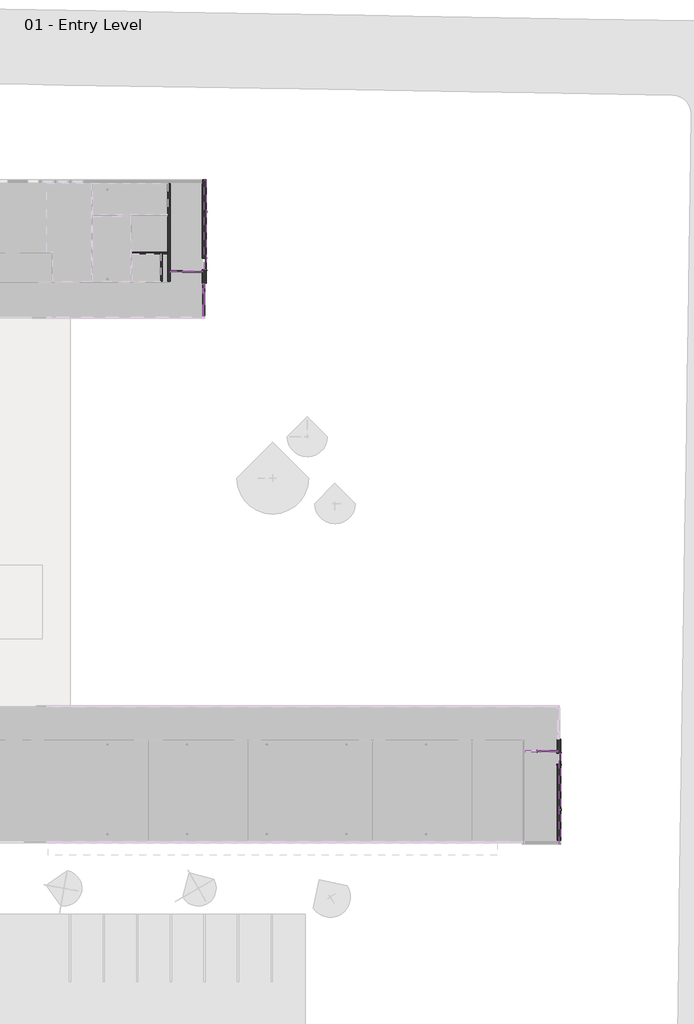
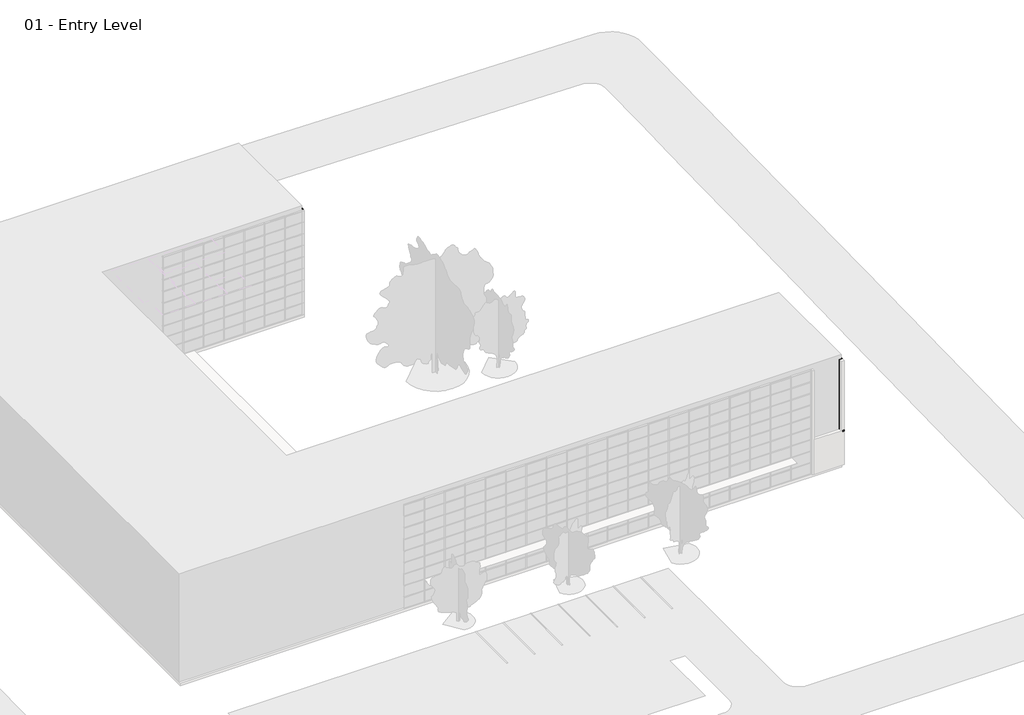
# One storey, part 31 of 34: 70 members, 23 plates, 5 walls, 4 proxies, 3 doors.
"""IFC4 building model written with IfcOpenShell, lengths in millimetres."""

from ifc_helpers import new_model, si_unit, frame, origin, origin_with_axes, place, context, project, spatial, polyline, outline, extrude, faceted_brep, transform, mapped, element, save
from components import curtain_wall_sgl_glass_curtain_wall_sgl_glass_c2d4b377, door_4e13689c, door_90af15fc, member_2b49869a, member_75074519, member_18e22e2d, member_9193c932, member_c33c434a, member_2ee2964b, member_9822c4e5, member_b50b2218, member_6186cc23, member_5d67b9fc, member_a50b3cda, member_c327c56d, member_410c6227, member_73c23c35, member_bcb6a316, member_d3323a85, member_7bd2cd2c, member_6be37683, member_aae1cefe, member_5e33a872, member_7c0f4a23, member_95d83a1b, system_panel_glazed_bb8d5bd2, system_panel_glazed_f6796d4b, system_panel_glazed_01db37db, system_panel_glazed_0a464ab8, system_panel_glazed_652e8fc4, system_panel_glazed_8dc8626f, system_panel_glazed_bb2f95a6, system_panel_glazed_de38c793, system_panel_glazed_8879a23a, system_panel_glazed_cf112098

model = new_model("IFC4")

# Units and contexts
model_context = context("Model", 3, world=origin())
ifc_project = project(units=[si_unit("LENGTHUNIT", "METRE", prefix="MILLI")], contexts=[model_context])

# Site, building, storey
site = spatial("IfcSite", under=ifc_project)
building = spatial("IfcBuilding", under=site)
storey = spatial("IfcBuildingStorey", under=building, Name="01 - Entry Level", Elevation=0.0)

# Proxies
placement = place(None, origin())
element("IfcBuildingElementProxy", 1, Name="Reveal", ObjectType="Reveal", at=placement, inside=storey, context=model_context, shape_type="SweptSolid", body=[
    extrude(outline(polyline([(66310.7957476, -254.075), (66158.3957476, -254.075), (66158.3957476, 7204.0), (66310.7957476, 7204.0), (66310.7957476, -254.075)])), frame((0.0, 0.0, 3505.2), z_axis=(0.0, 0.0, 1.0), x_axis=(1.0, 0.0, 0.0)), (0.0, 0.0, 1.0), 152.4),
])
element("IfcBuildingElementProxy", 2, Name="Reveal", ObjectType="Reveal", at=placement, inside=storey, context=model_context, shape_type="SweptSolid", body=[
    extrude(outline(polyline([(66341.2757476, 2490.7125), (66158.3957476, 2490.7125), (66158.3957476, 2643.1125), (66341.2757476, 2643.1125), (66341.2757476, 2490.7125)])), origin_with_axes(), (0.0, 0.0, 1.0), 9753.6),
])
element("IfcBuildingElementProxy", 3, Name="Reveal", ObjectType="Reveal", at=placement, inside=storey, context=model_context, shape_type="SweptSolid", body=[
    extrude(outline(polyline([(37385.2757476, 51336.5), (37202.3957476, 51336.5), (37202.3957476, 51488.9), (37385.2757476, 51488.9), (37385.2757476, 51336.5)])), origin_with_axes(), (0.0, 0.0, 1.0), 9753.6),
])
element("IfcBuildingElementProxy", 4, Name="Reveal", ObjectType="Reveal", at=placement, inside=storey, context=model_context, shape_type="SweptSolid", body=[
    extrude(outline(polyline([(37354.7957476, 46675.6), (37202.3957476, 46675.6), (37202.3957476, 54032.075), (37354.7957476, 54032.075), (37354.7957476, 46675.6)])), frame((0.0, 0.0, 3657.6), z_axis=(0.0, 0.0, 1.0), x_axis=(1.0, 0.0, 0.0)), (0.0, 0.0, 1.0), 152.4),
])

# Doors
curtain_wall_sgl_glass_curtain_wall_sgl_glass_shape = curtain_wall_sgl_glass_curtain_wall_sgl_glass_c2d4b377(model_context)
element("IfcDoor", 5, ObjectType="Curtain Wall Sgl Glass : Curtain Wall Sgl Glass", at=placement, inside=storey, context=model_context, shape_type="MappedRepresentation", body=[
    mapped(curtain_wall_sgl_glass_curtain_wall_sgl_glass_shape, transform((34925.9207476, 46523.2, 0.0), x_axis=(-1.0, 0.0, 0.0), y_axis=(0.0, -1.0, 0.0), z_axis=(0.0, 0.0, 1.0))),
])
door_shape = door_4e13689c(model_context)
element("IfcDoor", 6, ObjectType="Single-Flush : 36\" x 84\"", at=placement, inside=storey, context=model_context, shape_type="MappedRepresentation", body=[
    mapped(door_shape, transform((37200.8082476, 47132.8, 0.0), x_axis=(0.0, -1.0, 0.0), y_axis=(1.0, 0.0, 0.0), z_axis=(0.0, 0.0, 1.0))),
])
door_2_shape = door_90af15fc(model_context)
element("IfcDoor", 7, ObjectType="Single-Flush : 36\" x 84\"", at=placement, inside=storey, context=model_context, shape_type="MappedRepresentation", body=[
    mapped(door_2_shape, transform((66156.8082476, 6746.8, 0.0), x_axis=(0.0, 1.0, 0.0), y_axis=(-1.0, 0.0, 0.0), z_axis=(0.0, 0.0, 1.0))),
])

# Members
member_shape = member_2b49869a(model_context)
element("IfcMember", 8, ObjectType="Rectangular Mullion : 2.5\" x 5\" rectangular", at=placement, inside=storey, context=model_context, shape_type="MappedRepresentation", body=[
    mapped(member_shape, transform((37148.4207476, 44783.3, 9753.6), x_axis=(0.0, 1.0, 0.0), y_axis=(1.0, 0.0, 0.0), z_axis=(0.0, 0.0, -1.0))),
])
member_2_shape = member_75074519(model_context)
element("IfcMember", 9, ObjectType="Rectangular Mullion : 2.5\" x 5\" rectangular", at=placement, inside=storey, context=model_context, shape_type="MappedRepresentation", body=[
    mapped(member_2_shape, transform((37148.4207476, 45545.3, 9753.6), x_axis=(0.0, 1.0, 0.0), y_axis=(1.0, 0.0, 0.0), z_axis=(0.0, 0.0, -1.0))),
])
member_3_shape = member_18e22e2d(model_context)
element("IfcMember", 10, ObjectType="Rectangular Mullion : 2.5\" x 5\" rectangular", at=placement, inside=storey, context=model_context, shape_type="MappedRepresentation", body=[
    mapped(member_3_shape, transform((35414.8707476, 46523.2, 2438.4), x_axis=(1.0, 0.0, 0.0), y_axis=(0.0, -1.0, 0.0), z_axis=(0.0, 0.0, -1.0))),
])
element("IfcMember", 11, ObjectType="Rectangular Mullion : 2.5\" x 5\" rectangular", at=placement, inside=storey, context=model_context, shape_type="MappedRepresentation", body=[
    mapped(member_3_shape, transform((64358.1707476, 7356.4, 2438.4), x_axis=(1.0, 0.0, 0.0), y_axis=(0.0, -1.0, 0.0), z_axis=(0.0, 0.0, -1.0))),
])
member_4_shape = member_9193c932(model_context)
element("IfcMember", 12, ObjectType="Rectangular Mullion : 2.5\" x 5\" rectangular", at=placement, inside=storey, context=model_context, shape_type="MappedRepresentation", body=[
    mapped(member_4_shape, transform((66055.2082476, 7356.4, 2438.4), x_axis=(1.0, 0.0, 0.0), y_axis=(0.0, -1.0, 0.0), z_axis=(0.0, 0.0, -1.0))),
])
element("IfcMember", 13, ObjectType="Rectangular Mullion : 2.5\" x 5\" rectangular", at=placement, inside=storey, context=model_context, shape_type="MappedRepresentation", body=[
    mapped(member_4_shape, transform((34405.2207476, 46523.2, 3403.6), x_axis=(-1.0, 0.0, 0.0), y_axis=(0.0, -1.0, 0.0), z_axis=(0.0, 0.0, 1.0))),
])
element("IfcMember", 14, ObjectType="Rectangular Mullion : 2.5\" x 5\" rectangular", at=placement, inside=storey, context=model_context, shape_type="MappedRepresentation", body=[
    mapped(member_4_shape, transform((37046.8207476, 46523.2, 2438.4), x_axis=(1.0, 0.0, 0.0), y_axis=(0.0, -1.0, 0.0), z_axis=(0.0, 0.0, -1.0))),
])
element("IfcMember", 15, ObjectType="Rectangular Mullion : 2.5\" x 5\" rectangular", at=placement, inside=storey, context=model_context, shape_type="MappedRepresentation", body=[
    mapped(member_shape, transform((37148.4207476, 44783.3, 0.0), x_axis=(0.0, 1.0, 0.0), y_axis=(1.0, 0.0, 0.0), z_axis=(0.0, 0.0, -1.0))),
])
element("IfcMember", 16, ObjectType="Rectangular Mullion : 2.5\" x 5\" rectangular", at=placement, inside=storey, context=model_context, shape_type="MappedRepresentation", body=[
    mapped(member_shape, transform((37148.4207476, 44783.3, 1219.2), x_axis=(0.0, 1.0, 0.0), y_axis=(1.0, 0.0, 0.0), z_axis=(0.0, 0.0, -1.0))),
])
element("IfcMember", 17, ObjectType="Rectangular Mullion : 2.5\" x 5\" rectangular", at=placement, inside=storey, context=model_context, shape_type="MappedRepresentation", body=[
    mapped(member_shape, transform((37148.4207476, 44783.3, 2438.4), x_axis=(0.0, 1.0, 0.0), y_axis=(1.0, 0.0, 0.0), z_axis=(0.0, 0.0, -1.0))),
])
element("IfcMember", 18, ObjectType="Rectangular Mullion : 2.5\" x 5\" rectangular", at=placement, inside=storey, context=model_context, shape_type="MappedRepresentation", body=[
    mapped(member_shape, transform((37148.4207476, 44783.3, 3657.6), x_axis=(0.0, 1.0, 0.0), y_axis=(1.0, 0.0, 0.0), z_axis=(0.0, 0.0, -1.0))),
])
element("IfcMember", 19, ObjectType="Rectangular Mullion : 2.5\" x 5\" rectangular", at=placement, inside=storey, context=model_context, shape_type="MappedRepresentation", body=[
    mapped(member_shape, transform((37148.4207476, 44783.3, 4876.8), x_axis=(0.0, 1.0, 0.0), y_axis=(1.0, 0.0, 0.0), z_axis=(0.0, 0.0, -1.0))),
])
element("IfcMember", 20, ObjectType="Rectangular Mullion : 2.5\" x 5\" rectangular", at=placement, inside=storey, context=model_context, shape_type="MappedRepresentation", body=[
    mapped(member_shape, transform((37148.4207476, 44783.3, 6096.0), x_axis=(0.0, 1.0, 0.0), y_axis=(1.0, 0.0, 0.0), z_axis=(0.0, 0.0, -1.0))),
])
element("IfcMember", 21, ObjectType="Rectangular Mullion : 2.5\" x 5\" rectangular", at=placement, inside=storey, context=model_context, shape_type="MappedRepresentation", body=[
    mapped(member_shape, transform((37148.4207476, 44783.3, 7315.2), x_axis=(0.0, 1.0, 0.0), y_axis=(1.0, 0.0, 0.0), z_axis=(0.0, 0.0, -1.0))),
])
element("IfcMember", 22, ObjectType="Rectangular Mullion : 2.5\" x 5\" rectangular", at=placement, inside=storey, context=model_context, shape_type="MappedRepresentation", body=[
    mapped(member_shape, transform((37148.4207476, 44783.3, 8534.4), x_axis=(0.0, 1.0, 0.0), y_axis=(1.0, 0.0, 0.0), z_axis=(0.0, 0.0, -1.0))),
])
member_5_shape = member_c33c434a(model_context)
element("IfcMember", 23, ObjectType="Rectangular Mullion : 2.5\" x 5\" rectangular", at=placement, inside=storey, context=model_context, shape_type="MappedRepresentation", body=[
    mapped(member_5_shape, transform((37148.4207476, 45481.8, 10972.8), x_axis=(0.0, 0.0, 1.0), y_axis=(1.0, 0.0, 0.0), z_axis=(0.0, 1.0, 0.0))),
])
element("IfcMember", 24, ObjectType="Rectangular Mullion : 2.5\" x 5\" rectangular", at=placement, inside=storey, context=model_context, shape_type="MappedRepresentation", body=[
    mapped(member_5_shape, transform((37148.4207476, 44815.05, 0.0), x_axis=(0.0, 0.0, -1.0), y_axis=(1.0, 0.0, 0.0), z_axis=(0.0, -1.0, 0.0))),
])
member_6_shape = member_2ee2964b(model_context)
element("IfcMember", 25, ObjectType="Rectangular Mullion : 2.5\" x 5\" rectangular", at=placement, inside=storey, context=model_context, shape_type="MappedRepresentation", body=[
    mapped(member_6_shape, transform((37148.4207476, 45481.8, 1219.2), x_axis=(0.0, 0.0, 1.0), y_axis=(1.0, 0.0, 0.0), z_axis=(0.0, 1.0, 0.0))),
])
element("IfcMember", 26, ObjectType="Rectangular Mullion : 2.5\" x 5\" rectangular", at=placement, inside=storey, context=model_context, shape_type="MappedRepresentation", body=[
    mapped(member_6_shape, transform((37148.4207476, 45481.8, 2438.4), x_axis=(0.0, 0.0, 1.0), y_axis=(1.0, 0.0, 0.0), z_axis=(0.0, 1.0, 0.0))),
])
element("IfcMember", 27, ObjectType="Rectangular Mullion : 2.5\" x 5\" rectangular", at=placement, inside=storey, context=model_context, shape_type="MappedRepresentation", body=[
    mapped(member_6_shape, transform((37148.4207476, 45481.8, 3657.6), x_axis=(0.0, 0.0, 1.0), y_axis=(1.0, 0.0, 0.0), z_axis=(0.0, 1.0, 0.0))),
])
element("IfcMember", 28, ObjectType="Rectangular Mullion : 2.5\" x 5\" rectangular", at=placement, inside=storey, context=model_context, shape_type="MappedRepresentation", body=[
    mapped(member_6_shape, transform((37148.4207476, 45481.8, 4876.8), x_axis=(0.0, 0.0, 1.0), y_axis=(1.0, 0.0, 0.0), z_axis=(0.0, 1.0, 0.0))),
])
element("IfcMember", 29, ObjectType="Rectangular Mullion : 2.5\" x 5\" rectangular", at=placement, inside=storey, context=model_context, shape_type="MappedRepresentation", body=[
    mapped(member_6_shape, transform((37148.4207476, 45481.8, 6096.0), x_axis=(0.0, 0.0, 1.0), y_axis=(1.0, 0.0, 0.0), z_axis=(0.0, 1.0, 0.0))),
])
element("IfcMember", 30, ObjectType="Rectangular Mullion : 2.5\" x 5\" rectangular", at=placement, inside=storey, context=model_context, shape_type="MappedRepresentation", body=[
    mapped(member_6_shape, transform((37148.4207476, 45481.8, 7315.2), x_axis=(0.0, 0.0, 1.0), y_axis=(1.0, 0.0, 0.0), z_axis=(0.0, 1.0, 0.0))),
])
element("IfcMember", 31, ObjectType="Rectangular Mullion : 2.5\" x 5\" rectangular", at=placement, inside=storey, context=model_context, shape_type="MappedRepresentation", body=[
    mapped(member_6_shape, transform((37148.4207476, 45481.8, 8534.4), x_axis=(0.0, 0.0, 1.0), y_axis=(1.0, 0.0, 0.0), z_axis=(0.0, 1.0, 0.0))),
])
element("IfcMember", 32, ObjectType="Rectangular Mullion : 2.5\" x 5\" rectangular", at=placement, inside=storey, context=model_context, shape_type="MappedRepresentation", body=[
    mapped(member_6_shape, transform((37148.4207476, 45481.8, 9753.6), x_axis=(0.0, 0.0, 1.0), y_axis=(1.0, 0.0, 0.0), z_axis=(0.0, 1.0, 0.0))),
])
element("IfcMember", 33, ObjectType="Rectangular Mullion : 2.5\" x 5\" rectangular", at=placement, inside=storey, context=model_context, shape_type="MappedRepresentation", body=[
    mapped(member_2_shape, transform((37148.4207476, 45545.3, 0.0), x_axis=(0.0, 1.0, 0.0), y_axis=(1.0, 0.0, 0.0), z_axis=(0.0, 0.0, -1.0))),
])
element("IfcMember", 34, ObjectType="Rectangular Mullion : 2.5\" x 5\" rectangular", at=placement, inside=storey, context=model_context, shape_type="MappedRepresentation", body=[
    mapped(member_2_shape, transform((37148.4207476, 45545.3, 1219.2), x_axis=(0.0, 1.0, 0.0), y_axis=(1.0, 0.0, 0.0), z_axis=(0.0, 0.0, -1.0))),
])
element("IfcMember", 35, ObjectType="Rectangular Mullion : 2.5\" x 5\" rectangular", at=placement, inside=storey, context=model_context, shape_type="MappedRepresentation", body=[
    mapped(member_2_shape, transform((37148.4207476, 45545.3, 2438.4), x_axis=(0.0, 1.0, 0.0), y_axis=(1.0, 0.0, 0.0), z_axis=(0.0, 0.0, -1.0))),
])
element("IfcMember", 36, ObjectType="Rectangular Mullion : 2.5\" x 5\" rectangular", at=placement, inside=storey, context=model_context, shape_type="MappedRepresentation", body=[
    mapped(member_2_shape, transform((37148.4207476, 45545.3, 3657.6), x_axis=(0.0, 1.0, 0.0), y_axis=(1.0, 0.0, 0.0), z_axis=(0.0, 0.0, -1.0))),
])
element("IfcMember", 37, ObjectType="Rectangular Mullion : 2.5\" x 5\" rectangular", at=placement, inside=storey, context=model_context, shape_type="MappedRepresentation", body=[
    mapped(member_2_shape, transform((37148.4207476, 45545.3, 4876.8), x_axis=(0.0, 1.0, 0.0), y_axis=(1.0, 0.0, 0.0), z_axis=(0.0, 0.0, -1.0))),
])
element("IfcMember", 38, ObjectType="Rectangular Mullion : 2.5\" x 5\" rectangular", at=placement, inside=storey, context=model_context, shape_type="MappedRepresentation", body=[
    mapped(member_2_shape, transform((37148.4207476, 45545.3, 6096.0), x_axis=(0.0, 1.0, 0.0), y_axis=(1.0, 0.0, 0.0), z_axis=(0.0, 0.0, -1.0))),
])
element("IfcMember", 39, ObjectType="Rectangular Mullion : 2.5\" x 5\" rectangular", at=placement, inside=storey, context=model_context, shape_type="MappedRepresentation", body=[
    mapped(member_2_shape, transform((37148.4207476, 45545.3, 7315.2), x_axis=(0.0, 1.0, 0.0), y_axis=(1.0, 0.0, 0.0), z_axis=(0.0, 0.0, -1.0))),
])
element("IfcMember", 40, ObjectType="Rectangular Mullion : 2.5\" x 5\" rectangular", at=placement, inside=storey, context=model_context, shape_type="MappedRepresentation", body=[
    mapped(member_2_shape, transform((37148.4207476, 45545.3, 8534.4), x_axis=(0.0, 1.0, 0.0), y_axis=(1.0, 0.0, 0.0), z_axis=(0.0, 0.0, -1.0))),
])
member_7_shape = member_9822c4e5(model_context)
element("IfcMember", 41, ObjectType="Rectangular Mullion : 2.5\" x 5\" rectangular", at=placement, inside=storey, context=model_context, shape_type="MappedRepresentation", body=[
    mapped(member_7_shape, transform((37148.4207476, 44751.55, 10972.8), x_axis=(0.0, 0.0, 1.0), y_axis=(1.0, 0.0, 0.0), z_axis=(0.0, 1.0, 0.0))),
])
member_8_shape = member_b50b2218(model_context)
element("IfcMember", 42, ObjectType="Rectangular Mullion : 2.5\" x 5\" rectangular", at=placement, inside=storey, context=model_context, shape_type="MappedRepresentation", body=[
    mapped(member_8_shape, transform((37148.4207476, 44751.55, 1219.2), x_axis=(0.0, 0.0, 1.0), y_axis=(1.0, 0.0, 0.0), z_axis=(0.0, 1.0, 0.0))),
])
element("IfcMember", 43, ObjectType="Rectangular Mullion : 2.5\" x 5\" rectangular", at=placement, inside=storey, context=model_context, shape_type="MappedRepresentation", body=[
    mapped(member_8_shape, transform((37148.4207476, 44751.55, 2438.4), x_axis=(0.0, 0.0, 1.0), y_axis=(1.0, 0.0, 0.0), z_axis=(0.0, 1.0, 0.0))),
])
element("IfcMember", 44, ObjectType="Rectangular Mullion : 2.5\" x 5\" rectangular", at=placement, inside=storey, context=model_context, shape_type="MappedRepresentation", body=[
    mapped(member_8_shape, transform((37148.4207476, 44751.55, 3657.6), x_axis=(0.0, 0.0, 1.0), y_axis=(1.0, 0.0, 0.0), z_axis=(0.0, 1.0, 0.0))),
])
element("IfcMember", 45, ObjectType="Rectangular Mullion : 2.5\" x 5\" rectangular", at=placement, inside=storey, context=model_context, shape_type="MappedRepresentation", body=[
    mapped(member_8_shape, transform((37148.4207476, 44751.55, 4876.8), x_axis=(0.0, 0.0, 1.0), y_axis=(1.0, 0.0, 0.0), z_axis=(0.0, 1.0, 0.0))),
])
element("IfcMember", 46, ObjectType="Rectangular Mullion : 2.5\" x 5\" rectangular", at=placement, inside=storey, context=model_context, shape_type="MappedRepresentation", body=[
    mapped(member_8_shape, transform((37148.4207476, 44751.55, 6096.0), x_axis=(0.0, 0.0, 1.0), y_axis=(1.0, 0.0, 0.0), z_axis=(0.0, 1.0, 0.0))),
])
element("IfcMember", 47, ObjectType="Rectangular Mullion : 2.5\" x 5\" rectangular", at=placement, inside=storey, context=model_context, shape_type="MappedRepresentation", body=[
    mapped(member_8_shape, transform((37148.4207476, 44751.55, 7315.2), x_axis=(0.0, 0.0, 1.0), y_axis=(1.0, 0.0, 0.0), z_axis=(0.0, 1.0, 0.0))),
])
element("IfcMember", 48, ObjectType="Rectangular Mullion : 2.5\" x 5\" rectangular", at=placement, inside=storey, context=model_context, shape_type="MappedRepresentation", body=[
    mapped(member_8_shape, transform((37148.4207476, 44751.55, 8534.4), x_axis=(0.0, 0.0, 1.0), y_axis=(1.0, 0.0, 0.0), z_axis=(0.0, 1.0, 0.0))),
])
element("IfcMember", 49, ObjectType="Rectangular Mullion : 2.5\" x 5\" rectangular", at=placement, inside=storey, context=model_context, shape_type="MappedRepresentation", body=[
    mapped(member_8_shape, transform((37148.4207476, 44751.55, 9753.6), x_axis=(0.0, 0.0, 1.0), y_axis=(1.0, 0.0, 0.0), z_axis=(0.0, 1.0, 0.0))),
])
member_9_shape = member_6186cc23(model_context)
element("IfcMember", 50, ObjectType="Rectangular Mullion : 2.5\" x 5\" rectangular", at=placement, inside=storey, context=model_context, shape_type="MappedRepresentation", body=[
    mapped(member_9_shape, transform((35414.8707476, 46523.2, 0.0), x_axis=(1.0, 0.0, 0.0), y_axis=(0.0, -1.0, 0.0), z_axis=(0.0, 0.0, -1.0))),
])
member_10_shape = member_5d67b9fc(model_context)
element("IfcMember", 51, ObjectType="Rectangular Mullion : 2.5\" x 5\" rectangular", at=placement, inside=storey, context=model_context, shape_type="MappedRepresentation", body=[
    mapped(member_10_shape, transform((35414.8707476, 46523.2, 2165.35), x_axis=(1.0, 0.0, 0.0), y_axis=(0.0, -1.0, 0.0), z_axis=(0.0, 0.0, -1.0))),
])
member_11_shape = member_a50b3cda(model_context)
element("IfcMember", 52, ObjectType="Rectangular Mullion : 2.5\" x 5\" rectangular", at=placement, inside=storey, context=model_context, shape_type="MappedRepresentation", body=[
    mapped(member_11_shape, transform((37046.8207476, 46523.2, 0.0), x_axis=(1.0, 0.0, 0.0), y_axis=(0.0, -1.0, 0.0), z_axis=(0.0, 0.0, -1.0))),
])
member_12_shape = member_c327c56d(model_context)
element("IfcMember", 53, ObjectType="Rectangular Mullion : 2.5\" x 5\" rectangular", at=placement, inside=storey, context=model_context, shape_type="MappedRepresentation", body=[
    mapped(member_12_shape, transform((37046.8207476, 46523.2, 2165.35), x_axis=(1.0, 0.0, 0.0), y_axis=(0.0, -1.0, 0.0), z_axis=(0.0, 0.0, -1.0))),
])
member_13_shape = member_410c6227(model_context)
element("IfcMember", 54, ObjectType="Rectangular Mullion : 2.5\" x 5\" rectangular", at=placement, inside=storey, context=model_context, shape_type="MappedRepresentation", body=[
    mapped(member_13_shape, transform((35383.1207476, 46523.2, 2438.4), x_axis=(0.0, 0.0, 1.0), y_axis=(0.0, -1.0, 0.0), z_axis=(1.0, 0.0, 0.0))),
])
element("IfcMember", 55, ObjectType="Rectangular Mullion : 2.5\" x 5\" rectangular", at=placement, inside=storey, context=model_context, shape_type="MappedRepresentation", body=[
    mapped(member_13_shape, transform((35383.1207476, 46523.2, 2165.35), x_axis=(0.0, 0.0, 1.0), y_axis=(0.0, -1.0, 0.0), z_axis=(1.0, 0.0, 0.0))),
])
member_14_shape = member_73c23c35(model_context)
element("IfcMember", 56, ObjectType="Rectangular Mullion : 2.5\" x 5\" rectangular", at=placement, inside=storey, context=model_context, shape_type="MappedRepresentation", body=[
    mapped(member_14_shape, transform((35383.1207476, 46523.2, 3403.6), x_axis=(0.0, 0.0, 1.0), y_axis=(0.0, -1.0, 0.0), z_axis=(1.0, 0.0, 0.0))),
])
element("IfcMember", 57, ObjectType="Rectangular Mullion : 2.5\" x 5\" rectangular", at=placement, inside=storey, context=model_context, shape_type="MappedRepresentation", body=[
    mapped(member_12_shape, transform((34405.2207476, 46523.2, 2438.4), x_axis=(-1.0, 0.0, 0.0), y_axis=(0.0, -1.0, 0.0), z_axis=(0.0, 0.0, 1.0))),
])
element("IfcMember", 58, ObjectType="Rectangular Mullion : 2.5\" x 5\" rectangular", at=placement, inside=storey, context=model_context, shape_type="MappedRepresentation", body=[
    mapped(member_11_shape, transform((34405.2207476, 46523.2, 2165.35), x_axis=(-1.0, 0.0, 0.0), y_axis=(0.0, -1.0, 0.0), z_axis=(0.0, 0.0, 1.0))),
])
member_15_shape = member_bcb6a316(model_context)
element("IfcMember", 59, ObjectType="Rectangular Mullion : 2.5\" x 5\" rectangular", at=placement, inside=storey, context=model_context, shape_type="MappedRepresentation", body=[
    mapped(member_15_shape, transform((35726.0207476, 46523.2, 0.0), x_axis=(0.0, 0.0, -1.0), y_axis=(0.0, -1.0, 0.0), z_axis=(-1.0, 0.0, 0.0))),
])
member_16_shape = member_d3323a85(model_context)
element("IfcMember", 60, ObjectType="Rectangular Mullion : 2.5\" x 5\" rectangular", at=placement, inside=storey, context=model_context, shape_type="MappedRepresentation", body=[
    mapped(member_16_shape, transform((35446.6207476, 46523.2, 0.0), x_axis=(0.0, 0.0, -1.0), y_axis=(0.0, -1.0, 0.0), z_axis=(-1.0, 0.0, 0.0))),
])
element("IfcMember", 61, ObjectType="Rectangular Mullion : 2.5\" x 5\" rectangular", at=placement, inside=storey, context=model_context, shape_type="MappedRepresentation", body=[
    mapped(member_15_shape, transform((36983.3207476, 46523.2, 3403.6), x_axis=(0.0, 0.0, 1.0), y_axis=(0.0, -1.0, 0.0), z_axis=(1.0, 0.0, 0.0))),
])
element("IfcMember", 62, ObjectType="Rectangular Mullion : 2.5\" x 5\" rectangular", at=placement, inside=storey, context=model_context, shape_type="MappedRepresentation", body=[
    mapped(member_16_shape, transform((35726.0207476, 46523.2, 3403.6), x_axis=(0.0, 0.0, 1.0), y_axis=(0.0, -1.0, 0.0), z_axis=(1.0, 0.0, 0.0))),
])
member_17_shape = member_7bd2cd2c(model_context)
element("IfcMember", 63, ObjectType="Rectangular Mullion : 2.5\" x 5\" rectangular", at=placement, inside=storey, context=model_context, shape_type="MappedRepresentation", body=[
    mapped(member_17_shape, transform((36983.3207476, 46523.2, 2438.4), x_axis=(0.0, 0.0, 1.0), y_axis=(0.0, -1.0, 0.0), z_axis=(1.0, 0.0, 0.0))),
])
member_18_shape = member_6be37683(model_context)
element("IfcMember", 64, ObjectType="Rectangular Mullion : 2.5\" x 5\" rectangular", at=placement, inside=storey, context=model_context, shape_type="MappedRepresentation", body=[
    mapped(member_18_shape, transform((35726.0207476, 46523.2, 2438.4), x_axis=(0.0, 0.0, 1.0), y_axis=(0.0, -1.0, 0.0), z_axis=(1.0, 0.0, 0.0))),
])
element("IfcMember", 65, ObjectType="Rectangular Mullion : 2.5\" x 5\" rectangular", at=placement, inside=storey, context=model_context, shape_type="MappedRepresentation", body=[
    mapped(member_13_shape, transform((64326.4207476, 7356.4, 2438.4), x_axis=(0.0, 0.0, 1.0), y_axis=(0.0, -1.0, 0.0), z_axis=(1.0, 0.0, 0.0))),
])
element("IfcMember", 66, ObjectType="Rectangular Mullion : 2.5\" x 5\" rectangular", at=placement, inside=storey, context=model_context, shape_type="MappedRepresentation", body=[
    mapped(member_13_shape, transform((64326.4207476, 7356.4, 2165.35), x_axis=(0.0, 0.0, 1.0), y_axis=(0.0, -1.0, 0.0), z_axis=(1.0, 0.0, 0.0))),
])
element("IfcMember", 67, ObjectType="Rectangular Mullion : 2.5\" x 5\" rectangular", at=placement, inside=storey, context=model_context, shape_type="MappedRepresentation", body=[
    mapped(member_14_shape, transform((64326.4207476, 7356.4, 3403.6), x_axis=(0.0, 0.0, 1.0), y_axis=(0.0, -1.0, 0.0), z_axis=(1.0, 0.0, 0.0))),
])
element("IfcMember", 68, ObjectType="Rectangular Mullion : 2.5\" x 5\" rectangular", at=placement, inside=storey, context=model_context, shape_type="MappedRepresentation", body=[
    mapped(member_9_shape, transform((64358.1707476, 7356.4, 0.0), x_axis=(1.0, 0.0, 0.0), y_axis=(0.0, -1.0, 0.0), z_axis=(0.0, 0.0, -1.0))),
])
element("IfcMember", 69, ObjectType="Rectangular Mullion : 2.5\" x 5\" rectangular", at=placement, inside=storey, context=model_context, shape_type="MappedRepresentation", body=[
    mapped(member_10_shape, transform((64358.1707476, 7356.4, 2165.35), x_axis=(1.0, 0.0, 0.0), y_axis=(0.0, -1.0, 0.0), z_axis=(0.0, 0.0, -1.0))),
])
member_19_shape = member_aae1cefe(model_context)
element("IfcMember", 70, ObjectType="Rectangular Mullion : 2.5\" x 5\" rectangular", at=placement, inside=storey, context=model_context, shape_type="MappedRepresentation", body=[
    mapped(member_19_shape, transform((64701.8644976, 7356.4, 0.0), x_axis=(0.0, 0.0, -1.0), y_axis=(0.0, -1.0, 0.0), z_axis=(-1.0, 0.0, 0.0))),
])
member_20_shape = member_5e33a872(model_context)
element("IfcMember", 71, ObjectType="Rectangular Mullion : 2.5\" x 5\" rectangular", at=placement, inside=storey, context=model_context, shape_type="MappedRepresentation", body=[
    mapped(member_20_shape, transform((64389.9207476, 7356.4, 0.0), x_axis=(0.0, 0.0, -1.0), y_axis=(0.0, -1.0, 0.0), z_axis=(-1.0, 0.0, 0.0))),
])
member_21_shape = member_7c0f4a23(model_context)
element("IfcMember", 72, ObjectType="Rectangular Mullion : 2.5\" x 5\" rectangular", at=placement, inside=storey, context=model_context, shape_type="MappedRepresentation", body=[
    mapped(member_21_shape, transform((64701.8644976, 7356.4, 2438.4), x_axis=(0.0, 0.0, 1.0), y_axis=(0.0, -1.0, 0.0), z_axis=(1.0, 0.0, 0.0))),
])
member_22_shape = member_95d83a1b(model_context)
element("IfcMember", 73, ObjectType="Rectangular Mullion : 2.5\" x 5\" rectangular", at=placement, inside=storey, context=model_context, shape_type="MappedRepresentation", body=[
    mapped(member_22_shape, transform((65991.7082476, 7356.4, 2438.4), x_axis=(0.0, 0.0, 1.0), y_axis=(0.0, -1.0, 0.0), z_axis=(1.0, 0.0, 0.0))),
])
element("IfcMember", 74, ObjectType="Rectangular Mullion : 2.5\" x 5\" rectangular", at=placement, inside=storey, context=model_context, shape_type="MappedRepresentation", body=[
    mapped(member_19_shape, transform((65991.7082476, 7356.4, 3403.6), x_axis=(0.0, 0.0, 1.0), y_axis=(0.0, -1.0, 0.0), z_axis=(1.0, 0.0, 0.0))),
])
element("IfcMember", 75, ObjectType="Rectangular Mullion : 2.5\" x 5\" rectangular", at=placement, inside=storey, context=model_context, shape_type="MappedRepresentation", body=[
    mapped(member_20_shape, transform((64701.8644976, 7356.4, 3403.6), x_axis=(0.0, 0.0, 1.0), y_axis=(0.0, -1.0, 0.0), z_axis=(1.0, 0.0, 0.0))),
])
element("IfcMember", 76, ObjectType="Rectangular Mullion : 2.5\" x 5\" rectangular", at=placement, inside=storey, context=model_context, shape_type="MappedRepresentation", body=[
    mapped(member_11_shape, transform((66055.2082476, 7356.4, 0.0), x_axis=(1.0, 0.0, 0.0), y_axis=(0.0, -1.0, 0.0), z_axis=(0.0, 0.0, -1.0))),
])
element("IfcMember", 77, ObjectType="Rectangular Mullion : 2.5\" x 5\" rectangular", at=placement, inside=storey, context=model_context, shape_type="MappedRepresentation", body=[
    mapped(member_12_shape, transform((66055.2082476, 7356.4, 2165.35), x_axis=(1.0, 0.0, 0.0), y_axis=(0.0, -1.0, 0.0), z_axis=(0.0, 0.0, -1.0))),
])

# Plates
system_panel_glazed_shape = system_panel_glazed_bb8d5bd2(model_context)
element("IfcPlate", 78, ObjectType="System Panel : Glazed", at=placement, inside=storey, context=model_context, shape_type="MappedRepresentation", body=[
    mapped(system_panel_glazed_shape, transform((37148.4207476, 45148.425, 63.5), x_axis=(0.0, 1.0, 0.0), y_axis=(-1.0, 0.0, 0.0), z_axis=(0.0, 0.0, 1.0))),
])
element("IfcPlate", 79, ObjectType="System Panel : Glazed", at=placement, inside=storey, context=model_context, shape_type="MappedRepresentation", body=[
    mapped(system_panel_glazed_shape, transform((37148.4207476, 45148.425, 9785.35), x_axis=(0.0, 1.0, 0.0), y_axis=(-1.0, 0.0, 0.0), z_axis=(0.0, 0.0, 1.0))),
])
system_panel_glazed_2_shape = system_panel_glazed_f6796d4b(model_context)
element("IfcPlate", 80, ObjectType="System Panel : Glazed", at=placement, inside=storey, context=model_context, shape_type="MappedRepresentation", body=[
    mapped(system_panel_glazed_2_shape, transform((37148.4207476, 45148.425, 1250.95), x_axis=(0.0, 1.0, 0.0), y_axis=(-1.0, 0.0, 0.0), z_axis=(0.0, 0.0, 1.0))),
])
element("IfcPlate", 81, ObjectType="System Panel : Glazed", at=placement, inside=storey, context=model_context, shape_type="MappedRepresentation", body=[
    mapped(system_panel_glazed_2_shape, transform((37148.4207476, 45148.425, 2470.15), x_axis=(0.0, 1.0, 0.0), y_axis=(-1.0, 0.0, 0.0), z_axis=(0.0, 0.0, 1.0))),
])
element("IfcPlate", 82, ObjectType="System Panel : Glazed", at=placement, inside=storey, context=model_context, shape_type="MappedRepresentation", body=[
    mapped(system_panel_glazed_2_shape, transform((37148.4207476, 45148.425, 3689.35), x_axis=(0.0, 1.0, 0.0), y_axis=(-1.0, 0.0, 0.0), z_axis=(0.0, 0.0, 1.0))),
])
element("IfcPlate", 83, ObjectType="System Panel : Glazed", at=placement, inside=storey, context=model_context, shape_type="MappedRepresentation", body=[
    mapped(system_panel_glazed_2_shape, transform((37148.4207476, 45148.425, 4908.55), x_axis=(0.0, 1.0, 0.0), y_axis=(-1.0, 0.0, 0.0), z_axis=(0.0, 0.0, 1.0))),
])
element("IfcPlate", 84, ObjectType="System Panel : Glazed", at=placement, inside=storey, context=model_context, shape_type="MappedRepresentation", body=[
    mapped(system_panel_glazed_2_shape, transform((37148.4207476, 45148.425, 6127.75), x_axis=(0.0, 1.0, 0.0), y_axis=(-1.0, 0.0, 0.0), z_axis=(0.0, 0.0, 1.0))),
])
element("IfcPlate", 85, ObjectType="System Panel : Glazed", at=placement, inside=storey, context=model_context, shape_type="MappedRepresentation", body=[
    mapped(system_panel_glazed_2_shape, transform((37148.4207476, 45148.425, 7346.95), x_axis=(0.0, 1.0, 0.0), y_axis=(-1.0, 0.0, 0.0), z_axis=(0.0, 0.0, 1.0))),
])
element("IfcPlate", 86, ObjectType="System Panel : Glazed", at=placement, inside=storey, context=model_context, shape_type="MappedRepresentation", body=[
    mapped(system_panel_glazed_2_shape, transform((37148.4207476, 45148.425, 8566.15), x_axis=(0.0, 1.0, 0.0), y_axis=(-1.0, 0.0, 0.0), z_axis=(0.0, 0.0, 1.0))),
])
system_panel_glazed_3_shape = system_panel_glazed_01db37db(model_context)
element("IfcPlate", 87, ObjectType="System Panel : Glazed", at=placement, inside=storey, context=model_context, shape_type="MappedRepresentation", body=[
    mapped(system_panel_glazed_3_shape, transform((37148.4207476, 43814.925, 9785.35), x_axis=(0.0, 1.0, 0.0), y_axis=(-1.0, 0.0, 0.0), z_axis=(0.0, 0.0, 1.0))),
])
system_panel_glazed_4_shape = system_panel_glazed_0a464ab8(model_context)
element("IfcPlate", 88, ObjectType="System Panel : Glazed", at=placement, inside=storey, context=model_context, shape_type="MappedRepresentation", body=[
    mapped(system_panel_glazed_4_shape, transform((37148.4207476, 43814.925, 1250.95), x_axis=(0.0, 1.0, 0.0), y_axis=(-1.0, 0.0, 0.0), z_axis=(0.0, 0.0, 1.0))),
])
element("IfcPlate", 89, ObjectType="System Panel : Glazed", at=placement, inside=storey, context=model_context, shape_type="MappedRepresentation", body=[
    mapped(system_panel_glazed_4_shape, transform((37148.4207476, 43814.925, 2470.15), x_axis=(0.0, 1.0, 0.0), y_axis=(-1.0, 0.0, 0.0), z_axis=(0.0, 0.0, 1.0))),
])
element("IfcPlate", 90, ObjectType="System Panel : Glazed", at=placement, inside=storey, context=model_context, shape_type="MappedRepresentation", body=[
    mapped(system_panel_glazed_4_shape, transform((37148.4207476, 43814.925, 3689.35), x_axis=(0.0, 1.0, 0.0), y_axis=(-1.0, 0.0, 0.0), z_axis=(0.0, 0.0, 1.0))),
])
element("IfcPlate", 91, ObjectType="System Panel : Glazed", at=placement, inside=storey, context=model_context, shape_type="MappedRepresentation", body=[
    mapped(system_panel_glazed_4_shape, transform((37148.4207476, 43814.925, 4908.55), x_axis=(0.0, 1.0, 0.0), y_axis=(-1.0, 0.0, 0.0), z_axis=(0.0, 0.0, 1.0))),
])
element("IfcPlate", 92, ObjectType="System Panel : Glazed", at=placement, inside=storey, context=model_context, shape_type="MappedRepresentation", body=[
    mapped(system_panel_glazed_4_shape, transform((37148.4207476, 43814.925, 6127.75), x_axis=(0.0, 1.0, 0.0), y_axis=(-1.0, 0.0, 0.0), z_axis=(0.0, 0.0, 1.0))),
])
element("IfcPlate", 93, ObjectType="System Panel : Glazed", at=placement, inside=storey, context=model_context, shape_type="MappedRepresentation", body=[
    mapped(system_panel_glazed_4_shape, transform((37148.4207476, 43814.925, 7346.95), x_axis=(0.0, 1.0, 0.0), y_axis=(-1.0, 0.0, 0.0), z_axis=(0.0, 0.0, 1.0))),
])
element("IfcPlate", 94, ObjectType="System Panel : Glazed", at=placement, inside=storey, context=model_context, shape_type="MappedRepresentation", body=[
    mapped(system_panel_glazed_4_shape, transform((37148.4207476, 43814.925, 8566.15), x_axis=(0.0, 1.0, 0.0), y_axis=(-1.0, 0.0, 0.0), z_axis=(0.0, 0.0, 1.0))),
])
system_panel_glazed_5_shape = system_panel_glazed_652e8fc4(model_context)
element("IfcPlate", 95, ObjectType="System Panel : Glazed", at=placement, inside=storey, context=model_context, shape_type="MappedRepresentation", body=[
    mapped(system_panel_glazed_5_shape, transform((34925.9207476, 46523.2, 2470.15), x_axis=(1.0, 0.0, 0.0), y_axis=(0.0, 1.0, 0.0), z_axis=(0.0, 0.0, 1.0))),
])
system_panel_glazed_6_shape = system_panel_glazed_8dc8626f(model_context)
element("IfcPlate", 96, ObjectType="System Panel : Glazed", at=placement, inside=storey, context=model_context, shape_type="MappedRepresentation", body=[
    mapped(system_panel_glazed_6_shape, transform((34925.9207476, 46523.2, 2197.1), x_axis=(1.0, 0.0, 0.0), y_axis=(0.0, 1.0, 0.0), z_axis=(0.0, 0.0, 1.0))),
])
system_panel_glazed_7_shape = system_panel_glazed_bb2f95a6(model_context)
element("IfcPlate", 97, ObjectType="System Panel : Glazed", at=placement, inside=storey, context=model_context, shape_type="MappedRepresentation", body=[
    mapped(system_panel_glazed_7_shape, transform((36214.9707476, 46523.2, 63.5), x_axis=(1.0, 0.0, 0.0), y_axis=(0.0, 1.0, 0.0), z_axis=(0.0, 0.0, 1.0))),
])
system_panel_glazed_8_shape = system_panel_glazed_de38c793(model_context)
element("IfcPlate", 98, ObjectType="System Panel : Glazed", at=placement, inside=storey, context=model_context, shape_type="MappedRepresentation", body=[
    mapped(system_panel_glazed_8_shape, transform((36214.9707476, 46523.2, 2470.15), x_axis=(1.0, 0.0, 0.0), y_axis=(0.0, 1.0, 0.0), z_axis=(0.0, 0.0, 1.0))),
])
system_panel_glazed_9_shape = system_panel_glazed_8879a23a(model_context)
element("IfcPlate", 99, ObjectType="System Panel : Glazed", at=placement, inside=storey, context=model_context, shape_type="MappedRepresentation", body=[
    mapped(system_panel_glazed_9_shape, transform((65190.8144976, 7356.4, 2470.15), x_axis=(1.0, 0.0, 0.0), y_axis=(0.0, 1.0, 0.0), z_axis=(0.0, 0.0, 1.0))),
])
system_panel_glazed_10_shape = system_panel_glazed_cf112098(model_context)
element("IfcPlate", 100, ObjectType="System Panel : Glazed", at=placement, inside=storey, context=model_context, shape_type="MappedRepresentation", body=[
    mapped(system_panel_glazed_10_shape, transform((65190.8144976, 7356.4, 63.5), x_axis=(1.0, 0.0, 0.0), y_axis=(0.0, 1.0, 0.0), z_axis=(0.0, 0.0, 1.0))),
])

# Walls
element("IfcWall", 101, ObjectType="Exterior - EIFS on CMU", at=placement, inside=storey, context=model_context, shape_type="Brep", body=[
    faceted_brep([(66310.7957476, 8334.3, 0.0), (66310.7957476, 8334.3, 10972.8), (66310.7957476, 53.9, 10972.8), (66310.7957476, 53.9, 3657.6), (66310.7957476, 2490.7125, 3657.6), (66310.7957476, 2490.7125, 9753.6), (66310.7957476, 2643.1125, 9753.6), (66310.7957476, 2643.1125, 3657.6), (66310.7957476, 7204.0, 3657.6), (66310.7957476, 7204.0, 3505.2), (66310.7957476, 2643.1125, 3505.2), (66310.7957476, 2643.1125, 0.0), (66310.7957476, 6289.6, 0.0), (66310.7957476, 6289.6, 2133.6), (66310.7957476, 7204.0, 2133.6), (66310.7957476, 7204.0, 0.0), (66310.7957476, 53.9, 3505.2), (66310.7957476, 53.9, 0.0), (66310.7957476, 2490.7125, 0.0), (66310.7957476, 2490.7125, 3505.2), (66002.8207476, 8334.3, 10972.8), (66002.8207476, 8334.3, 0.0), (66002.8207476, 7204.0, 0.0), (66002.8207476, 7204.0, 2133.6), (66002.8207476, 6289.6, 2133.6), (66002.8207476, 6289.6, 0.0), (66002.8207476, 53.9, 0.0), (66002.8207476, 53.9, 3657.6), (66002.8207476, 53.9, 10972.8), (66158.3957476, 2643.1125, 0.0), (66158.3957476, 2490.7125, 0.0), (66158.3957476, 53.9, 3505.2), (66158.3957476, 53.9, 3657.6), (66158.3957476, 7204.0, 3505.2), (66158.3957476, 7204.0, 3657.6), (66158.3957476, 2643.1125, 3657.6), (66158.3957476, 2490.7125, 3657.6), (66158.3957476, 2643.1125, 9753.6), (66158.3957476, 2490.7125, 9753.6), (66158.3957476, 2490.7125, 3505.2), (66158.3957476, 2643.1125, 3505.2)], [[[0, 1, 2, 3, 4, 5, 6, 7, 8, 9, 10, 11, 12, 13, 14, 15]], [[16, 17, 18, 19]], [[20, 21, 22, 23, 24, 25, 26, 27, 28]], [[21, 0, 15, 22]], [[17, 26, 25, 12, 11, 29, 30, 18]], [[1, 0, 21, 20]], [[2, 1, 20, 28]], [[2, 28, 27, 26, 17, 16, 31, 32, 3]], [[23, 22, 15, 14]], [[24, 23, 14, 13]], [[25, 24, 13, 12]], [[33, 9, 8, 34]], [[34, 8, 7, 35]], [[3, 32, 36, 4]], [[33, 34, 35, 37, 38, 36, 32, 31, 39, 30, 29, 40]], [[9, 33, 40, 10]], [[31, 16, 19, 39]], [[38, 37, 6, 5]], [[37, 35, 7, 6]], [[40, 29, 11, 10]], [[36, 38, 5, 4]], [[30, 39, 19, 18]]]),
])
element("IfcWall", 102, ObjectType="Exterior - EIFS on CMU", at=placement, inside=storey, context=model_context, shape_type="Brep", body=[
    faceted_brep([(37354.7957476, 54032.075, 10972.8), (37354.7957476, 45545.3, 10972.8), (37354.7957476, 45545.3, 0.0), (37354.7957476, 46675.6, 0.0), (37354.7957476, 46675.6, 2133.6), (37354.7957476, 47590.0, 2133.6), (37354.7957476, 47590.0, 0.0), (37354.7957476, 51336.5, 0.0), (37354.7957476, 51336.5, 3657.6), (37354.7957476, 46675.6, 3657.6), (37354.7957476, 46675.6, 3810.0), (37354.7957476, 51336.5, 3810.0), (37354.7957476, 51336.5, 9753.6), (37354.7957476, 51488.9, 9753.6), (37354.7957476, 51488.9, 3810.0), (37354.7957476, 54032.075, 3810.0), (37354.7957476, 51488.9, 0.0), (37354.7957476, 54032.075, 0.0), (37354.7957476, 54032.075, 3657.6), (37354.7957476, 51488.9, 3657.6), (37046.8207476, 45545.3, 10972.8), (37046.8207476, 54032.075, 10972.8), (37046.8207476, 54032.075, 3657.6), (37046.8207476, 54032.075, 0.0), (37046.8207476, 53724.1, 0.0), (37046.8207476, 47590.0, 0.0), (37046.8207476, 47590.0, 2133.6), (37046.8207476, 46675.6, 2133.6), (37046.8207476, 46675.6, 0.0), (37046.8207476, 45545.3, 0.0), (37202.3957476, 51488.9, 0.0), (37202.3957476, 51336.5, 0.0), (37059.5207476, 54032.075, 10972.8), (37202.3957476, 54032.075, 3810.0), (37202.3957476, 54032.075, 3657.6), (37202.3957476, 51336.5, 9753.6), (37202.3957476, 51488.9, 9753.6), (37202.3957476, 51488.9, 3810.0), (37202.3957476, 51488.9, 3657.6), (37202.3957476, 51336.5, 3810.0), (37202.3957476, 46675.6, 3810.0), (37202.3957476, 46675.6, 3657.6), (37202.3957476, 51336.5, 3657.6)], [[[0, 1, 2, 3, 4, 5, 6, 7, 8, 9, 10, 11, 12, 13, 14, 15]], [[16, 17, 18, 19]], [[20, 21, 22, 23, 24, 25, 26, 27, 28, 29]], [[2, 29, 28, 3]], [[23, 17, 16, 30, 31, 7, 6, 25, 24]], [[1, 0, 32, 21, 20]], [[2, 1, 20, 29]], [[17, 23, 22, 21, 32, 0, 15, 33, 34, 18]], [[6, 5, 26, 25]], [[5, 4, 27, 26]], [[4, 3, 28, 27]], [[35, 36, 13, 12]], [[13, 36, 37, 14]], [[30, 16, 19, 38]], [[36, 35, 39, 40, 41, 42, 31, 30, 38, 34, 33, 37]], [[35, 12, 11, 39]], [[7, 31, 42, 8]], [[40, 10, 9, 41]], [[10, 40, 39, 11]], [[37, 33, 15, 14]], [[41, 9, 8, 42]], [[34, 38, 19, 18]]]),
])
element("IfcWall", 103, ObjectType="Generic - 5\"", at=placement, inside=storey, context=model_context, shape_type="Brep", body=[
    faceted_brep([(31319.1207476, 47983.7, 0.0), (33630.5207476, 47983.7, 0.0), (33757.5207476, 47983.7, 0.0), (34202.0207476, 47983.7, 0.0), (34202.0207476, 47983.7, 3403.6), (33757.5207476, 47983.7, 3403.6), (33630.5207476, 47983.7, 3403.6), (31319.1207476, 47983.7, 3403.6), (31319.1207476, 48110.7, 0.0), (31319.1207476, 48110.7, 3403.6), (34202.0207476, 48110.7, 3403.6), (34202.0207476, 48110.7, 0.0)], [[[0, 1, 2, 3, 4, 5, 6, 7]], [[8, 9, 10, 11]], [[3, 2, 1, 0, 8, 11]], [[4, 3, 11, 10]], [[0, 7, 9, 8]], [[7, 6, 5, 4, 10, 9]]]),
])
element("IfcWall", 104, ObjectType="Generic - 5\"", at=placement, inside=storey, context=model_context, shape_type="SweptSolid", body=[
    extrude(outline(polyline([(33757.5207476, 47983.7), (33757.5207476, 45672.3), (33630.5207476, 45672.3), (33630.5207476, 47983.7), (33757.5207476, 47983.7)])), origin_with_axes(), (0.0, 0.0, 1.0), 3403.6),
])
element("IfcWall", 105, ObjectType="Generic - 8\"", at=placement, inside=storey, context=model_context, shape_type="Brep", body=[
    faceted_brep([(34202.0207476, 53724.1, 0.0), (34202.0207476, 51146.0, 0.0), (34202.0207476, 51019.0, 0.0), (34202.0207476, 48110.7, 0.0), (34202.0207476, 47983.7, 0.0), (34202.0207476, 45672.3, 0.0), (34202.0207476, 45672.3, 3657.6), (34202.0207476, 45545.3, 3657.6), (34202.0207476, 45545.3, 7061.2), (34202.0207476, 45545.3, 7315.2), (34202.0207476, 45545.3, 10972.8), (34202.0207476, 45672.3, 10972.8), (34202.0207476, 47983.7, 10972.8), (34202.0207476, 48110.7, 10972.8), (34202.0207476, 53724.1, 10972.8), (34405.2207476, 53724.1, 0.0), (34405.2207476, 53724.1, 3657.6), (34405.2207476, 53724.1, 10972.8), (34405.2207476, 45545.3, 10972.8), (34405.2207476, 45545.3, 3657.6), (34405.2207476, 45672.3, 3657.6), (34405.2207476, 45672.3, 3403.6), (34405.2207476, 45672.3, 0.0)], [[[0, 1, 2, 3, 4, 5, 6, 7, 8, 9, 10, 11, 12, 13, 14]], [[15, 16, 17, 18, 19, 20, 21, 22]], [[5, 4, 3, 2, 1, 0, 15, 22]], [[14, 13, 12, 11, 10, 18, 17]], [[0, 14, 17, 16, 15]], [[19, 7, 6, 20]], [[6, 5, 22, 21, 20]], [[7, 19, 18, 10, 9, 8]]]),
])

save(model, "model.ifc")
